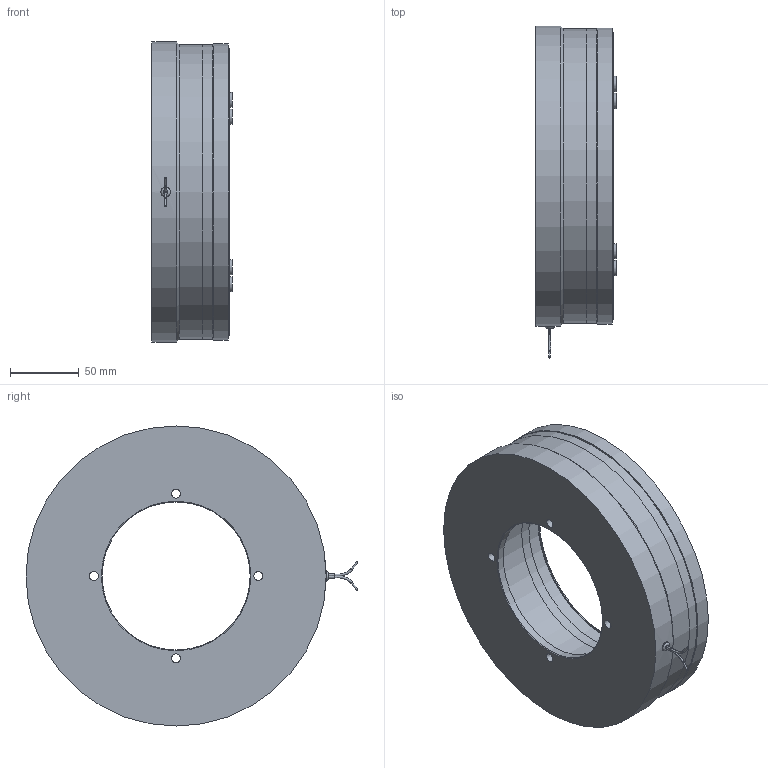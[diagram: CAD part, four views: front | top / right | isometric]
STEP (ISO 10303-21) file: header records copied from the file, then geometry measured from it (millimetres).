
FILE_DESCRIPTION(/* description */ (''),/* implementation_level */ '2;1');
FILE_NAME(/* name */ 'X:\INVENTOR\DISEGNI\08_Freni_Friz_Elettmag_Monodisco\08_28 EMFL_DF\EMFL_DF STEP\08_28_210_11 EMFL210_DF-B@STEP.stp',/* time_stamp */ '2018-04-23T16:01:16+02:00',/* author */ ('stefano'),/* organization */ (''),/* preprocessor_version */ 'ST-DEVELOPER v17',/* originating_system */ 'Autodesk Inventor 2018',/* authorisation */ '');
FILE_SCHEMA (('AUTOMOTIVE_DESIGN { 1 0 10303 214 3 1 1 }'));
Length unit declared in the file: millimetre
Products named in the file (1): 08_28_210_11 EMFL210_DF-B_Substitute_1
Bounding box: 58.5 x 242.22 x 219 mm (x, y, z)
Volume: 1037791.3 mm3; surface area: 243676.6 mm2
Topology: 1 solids, 1 shells, 257 faces, 842 edges, 542 vertices
Faces by surface type: cylinder 171, plane 53, cone 26, torus 5, bspline 2
Full cylindrical faces by diameter (mm): 1.154 x2, 1.5 x1, 6.5 x4, 7 x8, 8.1 x4, 11 x8, 13 x8, 108 x1, 132 x2, 134 x1, 136 x1, 154.5 x1, 164 x2, 192 x2, 198.5 x1, 210 x1, 215 x2, 216 x1, 219 x1
Entity records: 10584 total; most frequent: CARTESIAN_POINT 2211, DIRECTION 1913, ORIENTED_EDGE 1682, AXIS2_PLACEMENT_3D 851, EDGE_CURVE 841, CIRCLE 595, VERTEX_POINT 542, EDGE_LOOP 331
